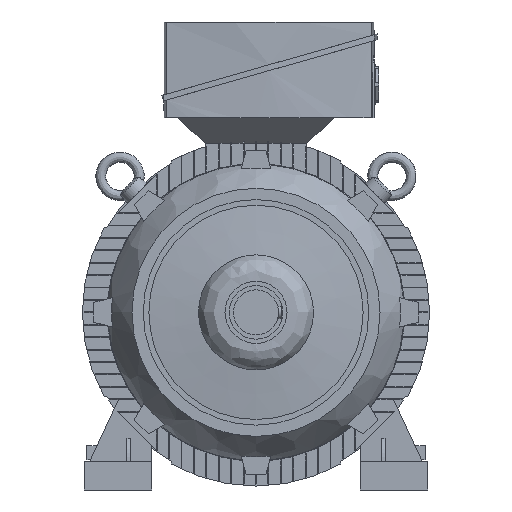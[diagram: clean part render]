
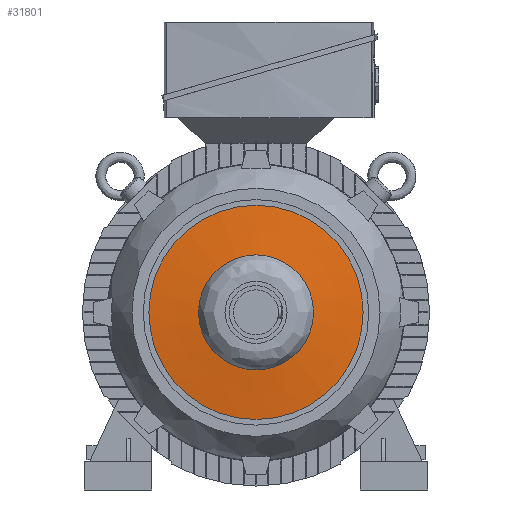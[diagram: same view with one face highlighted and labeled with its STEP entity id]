
A CAD part, left-side view. The second image highlights one B-rep face of the part: STEP entity #31801.
In plain terms, the highlighted conical face has half-angle 83.517 degrees and reference radius 190 mm.
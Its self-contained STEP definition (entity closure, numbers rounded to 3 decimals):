
#9377 = AXIS2_PLACEMENT_3D ( 'NONE', #14745, #14746, #14747 ) ;
#9396 = AXIS2_PLACEMENT_3D ( 'NONE', #15069, #15070, #15071 ) ;
#9630 = EDGE_LOOP ( 'NONE', ( #33524 ) ) ;
#9643 = EDGE_LOOP ( 'NONE', ( #33494 ) ) ;
#12317 = CIRCLE ( 'NONE', #9377, 190. ) ;
#12393 = CIRCLE ( 'NONE', #9396, 102. ) ;
#14745 = CARTESIAN_POINT ( 'NONE',  ( -64., 0., 0. ) ) ;
#14746 = DIRECTION ( 'NONE',  ( 1., 0., 0. ) ) ;
#14747 = DIRECTION ( 'NONE',  ( 0., 0., -1. ) ) ;
#15069 = CARTESIAN_POINT ( 'NONE',  ( -74., 0., 0. ) ) ;
#15070 = DIRECTION ( 'NONE',  ( 1., 0., 0. ) ) ;
#15071 = DIRECTION ( 'NONE',  ( 0., 1., 0. ) ) ;
#25802 = CARTESIAN_POINT ( 'NONE',  ( -64., 0., -190. ) ) ;
#25812 = CARTESIAN_POINT ( 'NONE',  ( -74., 102., 0. ) ) ;
#26307 = VERTEX_POINT ( 'NONE', #25802 ) ;
#26312 = VERTEX_POINT ( 'NONE', #25812 ) ;
#31801 = ADVANCED_FACE ( 'NONE', ( #34575, #34579 ), #34585, .T. ) ;
#33494 = ORIENTED_EDGE ( 'NONE', *, *, #38898, .F. ) ;
#33524 = ORIENTED_EDGE ( 'NONE', *, *, #39027, .T. ) ;
#34575 = FACE_OUTER_BOUND ( 'NONE', #9643, .T. ) ;
#34579 = FACE_BOUND ( 'NONE', #9630, .T. ) ;
#34585 = CONICAL_SURFACE ( 'NONE', #50892, 190., 1.458 ) ;
#38898 = EDGE_CURVE ( 'NONE', #26307, #26307, #12317, .T. ) ;
#38980 = CARTESIAN_POINT ( 'NONE',  ( -64., 0., 0. ) ) ;
#38983 = DIRECTION ( 'NONE',  ( 1., 0., 0. ) ) ;
#38996 = DIRECTION ( 'NONE',  ( 0., 0., -1. ) ) ;
#39027 = EDGE_CURVE ( 'NONE', #26312, #26312, #12393, .T. ) ;
#50892 = AXIS2_PLACEMENT_3D ( 'NONE', #38980, #38983, #38996 ) ;
